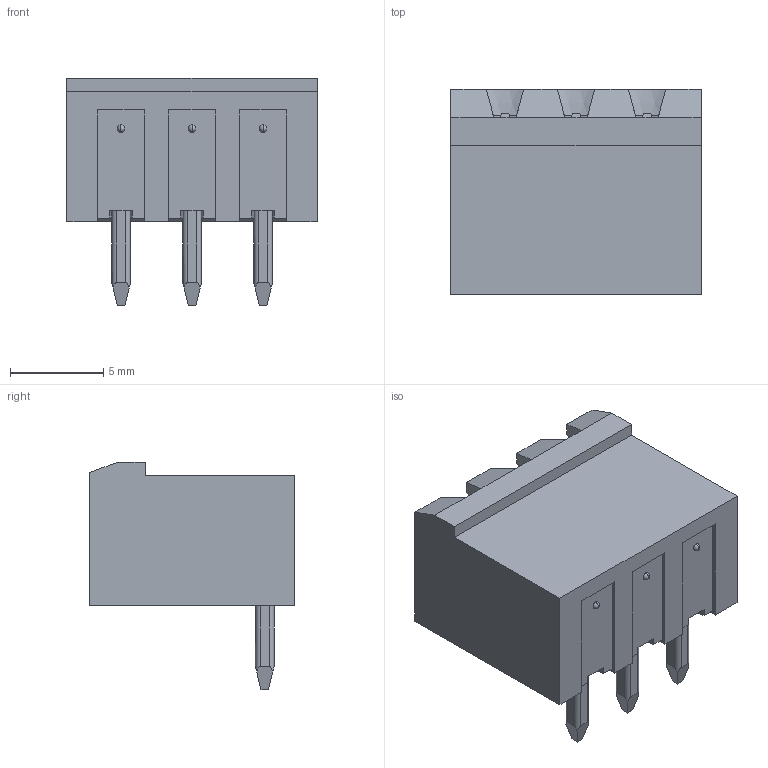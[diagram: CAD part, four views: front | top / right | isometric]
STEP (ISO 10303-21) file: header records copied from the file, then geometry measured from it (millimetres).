
FILE_DESCRIPTION((''),'2;1');
FILE_NAME('3','2019-05-08T',('zhenbing.lai'),(''),'CREO PARAMETRIC BY PTC INC, 2016260','CREO PARAMETRIC BY PTC INC, 2016260','');
FILE_SCHEMA(('CONFIG_CONTROL_DESIGN'));
Length unit declared in the file: millimetre
Products named in the file (1): 3
Bounding box: 13.43 x 11 x 12.2 mm (x, y, z)
Volume: 671.4 mm3; surface area: 959.9 mm2
Topology: 1 solids, 1 shells, 176 faces, 491 edges, 317 vertices
Faces by surface type: plane 140, cylinder 27, sphere 6, cone 3
Entity records: 5783 total; most frequent: CARTESIAN_POINT 1323, ORIENTED_EDGE 970, DIRECTION 834, EDGE_CURVE 485, VECTOR 380, LINE 380, VERTEX_POINT 317, AXIS2_PLACEMENT_3D 227
